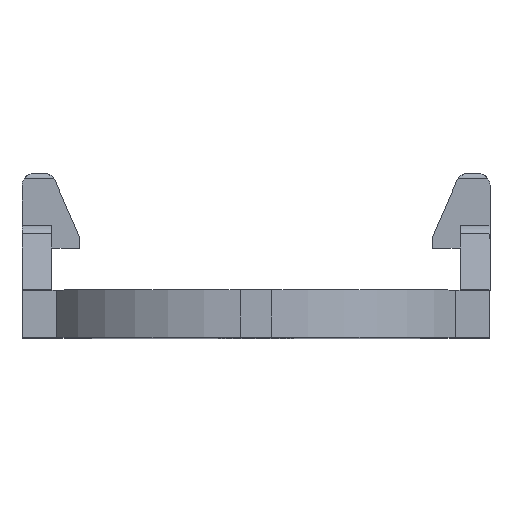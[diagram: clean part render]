
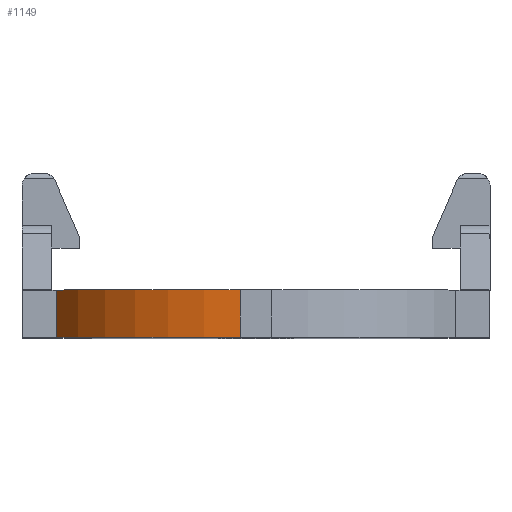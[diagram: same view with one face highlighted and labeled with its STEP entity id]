
A CAD part, top view. The second image highlights one B-rep face of the part: STEP entity #1149.
In plain terms, the highlighted cylindrical face has radius 8.586 mm (diameter 17.172 mm), a partial arc.
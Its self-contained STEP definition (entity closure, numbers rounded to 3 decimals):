
#70 = AXIS2_PLACEMENT_3D ( 'NONE', #748, #1536, #761 ) ;
#193 = DIRECTION ( 'NONE',  ( 0., 0., -1. ) ) ;
#353 = CARTESIAN_POINT ( 'NONE',  ( -0.637, 1.9, 8.438 ) ) ;
#404 = DIRECTION ( 'NONE',  ( 0., 0., 1. ) ) ;
#412 = DIRECTION ( 'NONE',  ( 0., -1., 0. ) ) ;
#571 = AXIS2_PLACEMENT_3D ( 'NONE', #353, #650, #404 ) ;
#640 = EDGE_LOOP ( 'NONE', ( #999, #2480, #3065, #677 ) ) ;
#641 = AXIS2_PLACEMENT_3D ( 'NONE', #991, #780, #193 ) ;
#650 = DIRECTION ( 'NONE',  ( 0., -1., 0. ) ) ;
#677 = ORIENTED_EDGE ( 'NONE', *, *, #1399, .F. ) ;
#748 = CARTESIAN_POINT ( 'NONE',  ( -0.637, 0., 8.438 ) ) ;
#761 = DIRECTION ( 'NONE',  ( 0., 0., 1. ) ) ;
#780 = DIRECTION ( 'NONE',  ( 0., -1., 0. ) ) ;
#851 = VECTOR ( 'NONE', #412, 1000. ) ;
#991 = CARTESIAN_POINT ( 'NONE',  ( -0.637, 1.9, 8.438 ) ) ;
#999 = ORIENTED_EDGE ( 'NONE', *, *, #3369, .T. ) ;
#1007 = CARTESIAN_POINT ( 'NONE',  ( -8., 1.9, 12.854 ) ) ;
#1149 = ADVANCED_FACE ( 'NONE', ( #1558 ), #2833, .T. ) ;
#1179 = CIRCLE ( 'NONE', #70, 8.586 ) ;
#1399 = EDGE_CURVE ( 'NONE', #2501, #1534, #2761, .T. ) ;
#1534 = VERTEX_POINT ( 'NONE', #2291 ) ;
#1536 = DIRECTION ( 'NONE',  ( 0., -1., 0. ) ) ;
#1558 = FACE_OUTER_BOUND ( 'NONE', #640, .T. ) ;
#2050 = CIRCLE ( 'NONE', #571, 8.586 ) ;
#2119 = VECTOR ( 'NONE', #3374, 1000. ) ;
#2291 = CARTESIAN_POINT ( 'NONE',  ( -0.637, 0., 17.024 ) ) ;
#2480 = ORIENTED_EDGE ( 'NONE', *, *, #2811, .T. ) ;
#2501 = VERTEX_POINT ( 'NONE', #2963 ) ;
#2761 = LINE ( 'NONE', #3241, #851 ) ;
#2780 = VERTEX_POINT ( 'NONE', #2816 ) ;
#2801 = LINE ( 'NONE', #1007, #2119 ) ;
#2811 = EDGE_CURVE ( 'NONE', #2872, #2780, #2801, .T. ) ;
#2816 = CARTESIAN_POINT ( 'NONE',  ( -8., 0., 12.854 ) ) ;
#2833 = CYLINDRICAL_SURFACE ( 'NONE', #641, 8.586 ) ;
#2835 = CARTESIAN_POINT ( 'NONE',  ( -8., 1.9, 12.854 ) ) ;
#2872 = VERTEX_POINT ( 'NONE', #2835 ) ;
#2963 = CARTESIAN_POINT ( 'NONE',  ( -0.637, 1.9, 17.024 ) ) ;
#3065 = ORIENTED_EDGE ( 'NONE', *, *, #3280, .F. ) ;
#3241 = CARTESIAN_POINT ( 'NONE',  ( -0.637, 1.9, 17.024 ) ) ;
#3280 = EDGE_CURVE ( 'NONE', #1534, #2780, #1179, .T. ) ;
#3369 = EDGE_CURVE ( 'NONE', #2501, #2872, #2050, .T. ) ;
#3374 = DIRECTION ( 'NONE',  ( 0., -1., 0. ) ) ;
